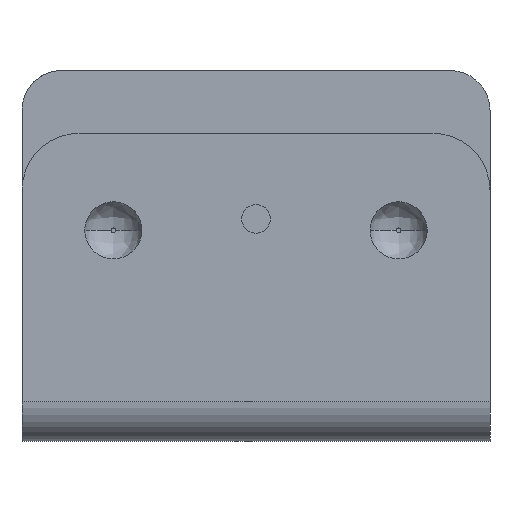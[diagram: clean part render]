
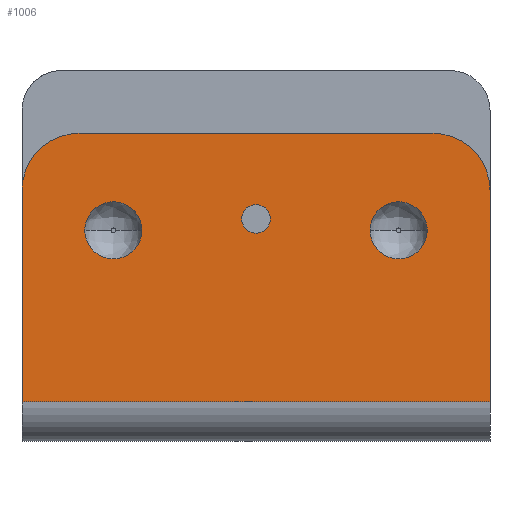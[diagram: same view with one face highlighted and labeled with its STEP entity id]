
A CAD part, front view. The second image highlights one B-rep face of the part: STEP entity #1006.
In plain terms, the highlighted planar face has unit normal (0, -1, 0).
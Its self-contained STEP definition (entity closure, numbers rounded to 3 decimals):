
#24=DIRECTION('',(0.,0.,-1.));
#25=VECTOR('',#24,18.5);
#26=CARTESIAN_POINT('',(-20.5,-32.3,-10.5));
#27=LINE('',#26,#25);
#260=DIRECTION('',(1.,0.,0.));
#261=VECTOR('',#260,41.);
#262=CARTESIAN_POINT('',(-20.5,-32.3,-29.));
#263=LINE('',#262,#261);
#264=DIRECTION('',(1.,0.,0.));
#265=VECTOR('',#264,31.);
#266=CARTESIAN_POINT('',(-15.5,-32.3,-5.5));
#267=LINE('',#266,#265);
#268=CARTESIAN_POINT('',(0.,-32.3,-13.));
#269=DIRECTION('',(0.,-1.,0.));
#270=DIRECTION('',(0.,0.,-1.));
#271=AXIS2_PLACEMENT_3D('',#268,#269,#270);
#273=CARTESIAN_POINT('',(0.,-32.3,-13.));
#274=DIRECTION('',(0.,-1.,0.));
#275=DIRECTION('',(0.,0.,1.));
#276=AXIS2_PLACEMENT_3D('',#273,#274,#275);
#291=CARTESIAN_POINT('',(15.5,-32.3,-10.5));
#292=DIRECTION('',(0.,-1.,0.));
#293=DIRECTION('',(1.,0.,0.));
#294=AXIS2_PLACEMENT_3D('',#291,#292,#293);
#304=CARTESIAN_POINT('',(-15.5,-32.3,-10.5));
#305=DIRECTION('',(0.,-1.,0.));
#306=DIRECTION('',(0.,0.,1.));
#307=AXIS2_PLACEMENT_3D('',#304,#305,#306);
#380=DIRECTION('',(0.,0.,-1.));
#381=VECTOR('',#380,18.5);
#382=CARTESIAN_POINT('',(20.5,-32.3,-10.5));
#383=LINE('',#382,#381);
#518=CARTESIAN_POINT('',(-12.5,-32.3,-14.));
#519=DIRECTION('',(0.,1.,0.));
#520=DIRECTION('',(-1.,0.,0.));
#521=AXIS2_PLACEMENT_3D('',#518,#519,#520);
#533=CARTESIAN_POINT('',(-12.5,-32.3,-14.));
#534=DIRECTION('',(0.,1.,0.));
#535=DIRECTION('',(1.,0.,0.));
#536=AXIS2_PLACEMENT_3D('',#533,#534,#535);
#548=CARTESIAN_POINT('',(12.5,-32.3,-14.));
#549=DIRECTION('',(0.,1.,0.));
#550=DIRECTION('',(-1.,0.,0.));
#551=AXIS2_PLACEMENT_3D('',#548,#549,#550);
#563=CARTESIAN_POINT('',(12.5,-32.3,-14.));
#564=DIRECTION('',(0.,1.,0.));
#565=DIRECTION('',(1.,0.,0.));
#566=AXIS2_PLACEMENT_3D('',#563,#564,#565);
#584=CARTESIAN_POINT('',(-20.5,-32.3,-29.));
#586=VERTEX_POINT('',#584);
#600=CARTESIAN_POINT('',(20.5,-32.3,-29.));
#602=VERTEX_POINT('',#600);
#609=CARTESIAN_POINT('',(15.5,-32.3,-5.5));
#611=VERTEX_POINT('',#609);
#614=CARTESIAN_POINT('',(20.5,-32.3,-10.5));
#615=VERTEX_POINT('',#614);
#616=CARTESIAN_POINT('',(-15.5,-32.3,-5.5));
#618=VERTEX_POINT('',#616);
#620=CARTESIAN_POINT('',(-20.5,-32.3,-10.5));
#621=VERTEX_POINT('',#620);
#634=CARTESIAN_POINT('',(0.,-32.3,-14.25));
#635=CARTESIAN_POINT('',(0.,-32.3,-11.75));
#636=VERTEX_POINT('',#634);
#637=VERTEX_POINT('',#635);
#658=CARTESIAN_POINT('',(-15.,-32.3,-14.));
#659=CARTESIAN_POINT('',(-10.,-32.3,-14.));
#660=VERTEX_POINT('',#658);
#661=VERTEX_POINT('',#659);
#666=CARTESIAN_POINT('',(10.,-32.3,-14.));
#667=CARTESIAN_POINT('',(15.,-32.3,-14.));
#668=VERTEX_POINT('',#666);
#669=VERTEX_POINT('',#667);
#971=CARTESIAN_POINT('',(-20.5,-32.3,-5.5));
#972=DIRECTION('',(0.,-1.,0.));
#973=DIRECTION('',(0.,0.,-1.));
#974=AXIS2_PLACEMENT_3D('',#971,#972,#973);
#975=PLANE('',#974);
#977=ORIENTED_EDGE('',*,*,#976,.F.);
#979=ORIENTED_EDGE('',*,*,#978,.T.);
#980=ORIENTED_EDGE('',*,*,#963,.F.);
#981=ORIENTED_EDGE('',*,*,#729,.F.);
#983=ORIENTED_EDGE('',*,*,#982,.F.);
#985=ORIENTED_EDGE('',*,*,#984,.T.);
#986=EDGE_LOOP('',(#977,#979,#980,#981,#983,#985));
#987=FACE_OUTER_BOUND('',#986,.F.);
#989=ORIENTED_EDGE('',*,*,#988,.T.);
#991=ORIENTED_EDGE('',*,*,#990,.T.);
#992=EDGE_LOOP('',(#989,#991));
#993=FACE_BOUND('',#992,.F.);
#995=ORIENTED_EDGE('',*,*,#994,.F.);
#997=ORIENTED_EDGE('',*,*,#996,.F.);
#998=EDGE_LOOP('',(#995,#997));
#999=FACE_BOUND('',#998,.F.);
#1001=ORIENTED_EDGE('',*,*,#1000,.F.);
#1003=ORIENTED_EDGE('',*,*,#1002,.F.);
#1004=EDGE_LOOP('',(#1001,#1003));
#1005=FACE_BOUND('',#1004,.F.);
#1006=ADVANCED_FACE('',(#987,#993,#999,#1005),#975,.T.);
#272=CIRCLE('',#271,1.25);
#277=CIRCLE('',#276,1.25);
#295=CIRCLE('',#294,5.);
#308=CIRCLE('',#307,5.);
#522=CIRCLE('',#521,2.5);
#537=CIRCLE('',#536,2.5);
#552=CIRCLE('',#551,2.5);
#567=CIRCLE('',#566,2.5);
#729=EDGE_CURVE('',#621,#586,#27,.T.);
#963=EDGE_CURVE('',#586,#602,#263,.T.);
#976=EDGE_CURVE('',#615,#611,#295,.T.);
#978=EDGE_CURVE('',#615,#602,#383,.T.);
#982=EDGE_CURVE('',#618,#621,#308,.T.);
#984=EDGE_CURVE('',#618,#611,#267,.T.);
#988=EDGE_CURVE('',#636,#637,#272,.T.);
#990=EDGE_CURVE('',#637,#636,#277,.T.);
#994=EDGE_CURVE('',#660,#661,#522,.T.);
#996=EDGE_CURVE('',#661,#660,#537,.T.);
#1000=EDGE_CURVE('',#668,#669,#552,.T.);
#1002=EDGE_CURVE('',#669,#668,#567,.T.);
